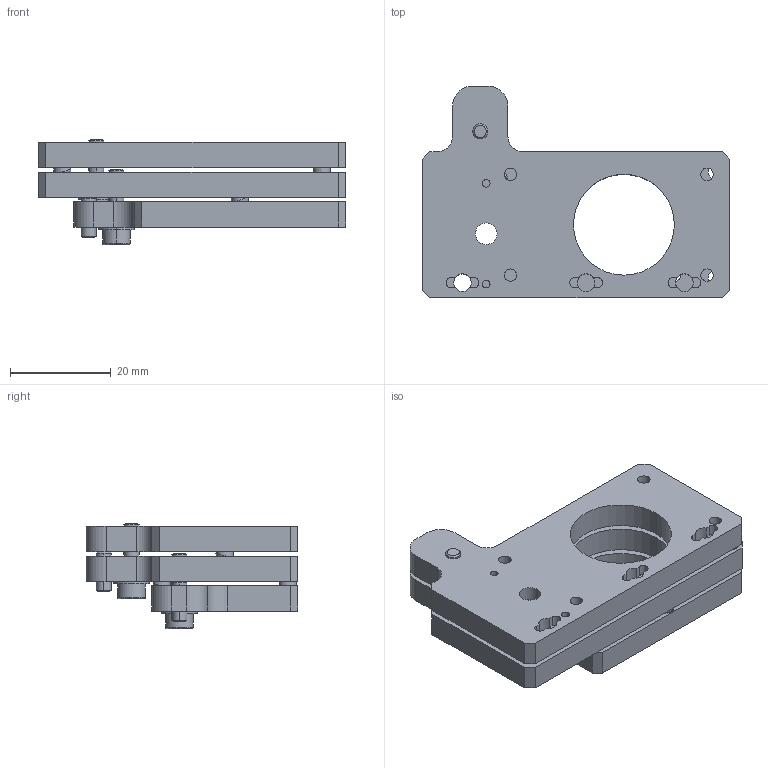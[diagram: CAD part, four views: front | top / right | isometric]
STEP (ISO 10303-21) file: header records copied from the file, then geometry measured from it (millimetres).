
FILE_DESCRIPTION (( 'STEP AP203' ), '1' );
FILE_NAME ('6TS29-21.STEP', '2011-05-25T12:04:40', ( 'Darius' ), ( '' ), 'SwSTEP 2.0', 'SolidWorks 2003240', '' );
FILE_SCHEMA (( 'CONFIG_CONTROL_DESIGN' ));
Length unit declared in the file: millimetre
Products named in the file (1): 6TS29-21
Bounding box: 61 x 42 x 20.9 mm (x, y, z)
Volume: 19991.4 mm3; surface area: 13214.3 mm2
Topology: 1 solids, 3 shells, 298 faces, 826 edges, 546 vertices
Faces by surface type: plane 137, cylinder 127, cone 22, bspline 12
Entity records: 10337 total; most frequent: CARTESIAN_POINT 2327, DIRECTION 1678, ORIENTED_EDGE 1644, EDGE_CURVE 822, AXIS2_PLACEMENT_3D 621, VERTEX_POINT 546, VECTOR 436, LINE 436
